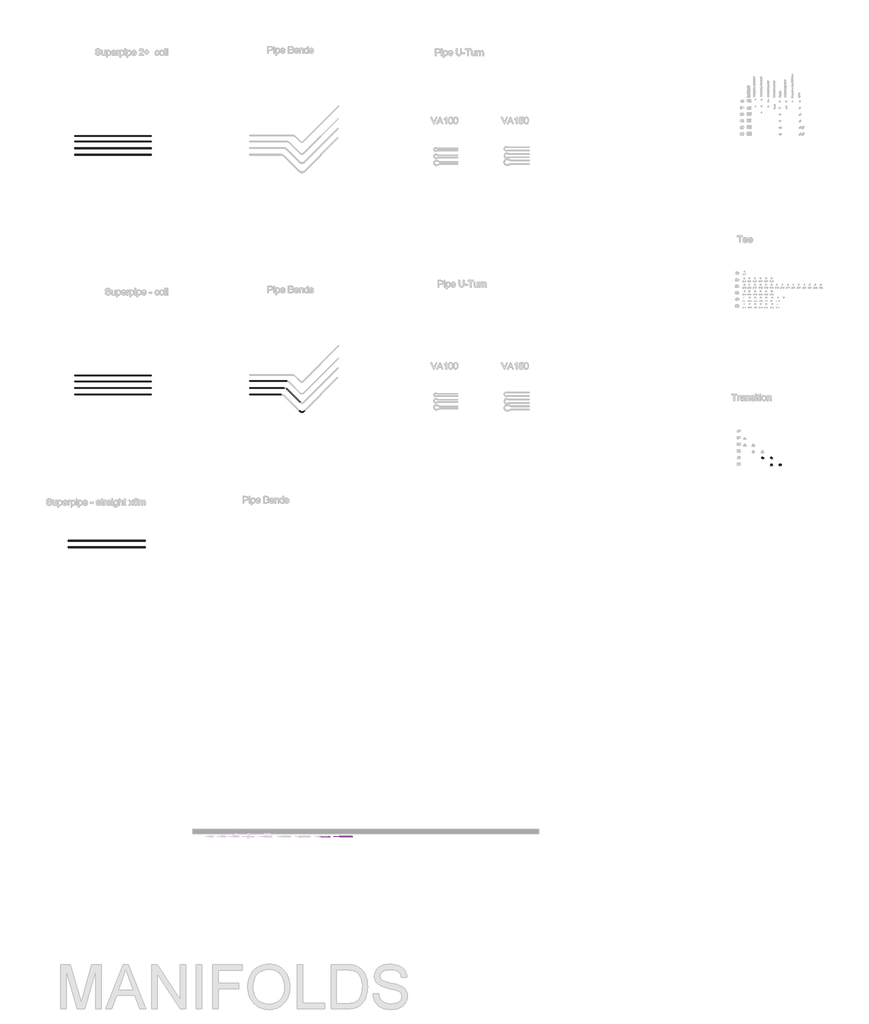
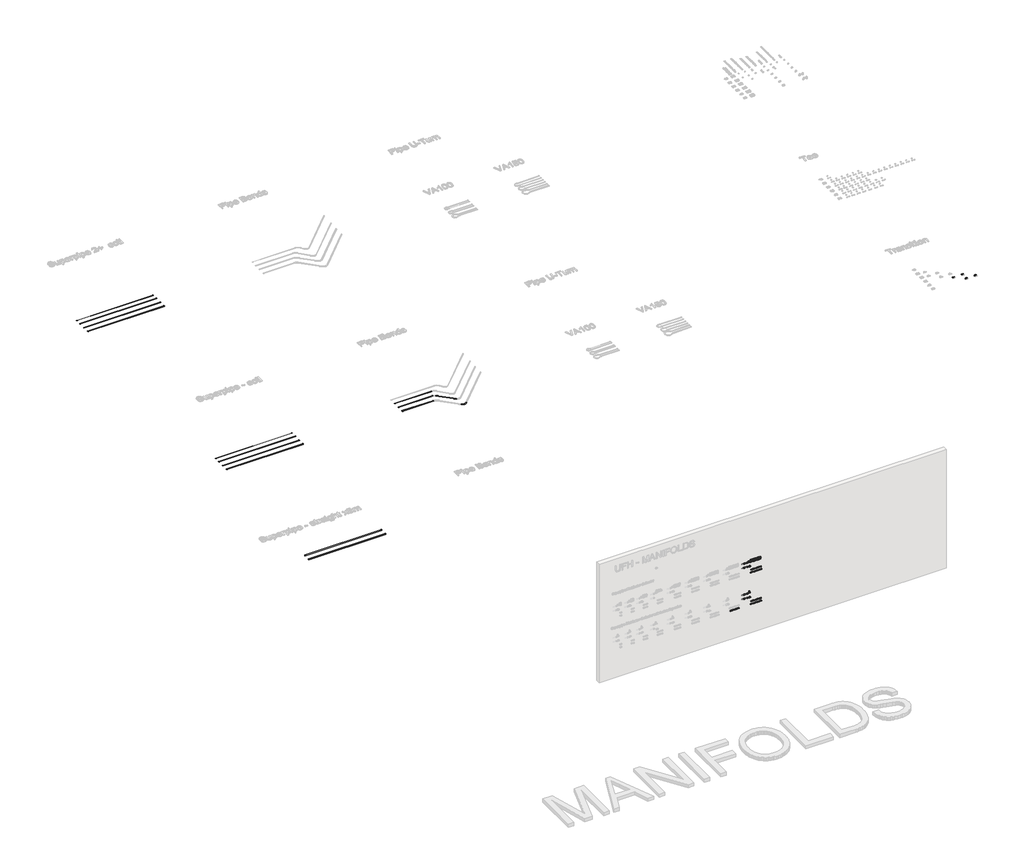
# One storey, part 4 of 26: 61 pipe fittings, 20 pipe segments, 15 valves.
"""IFC4 building model written with IfcOpenShell, lengths in millimetres."""

from ifc_helpers import new_model, si_unit, point, frame, frame_2d, origin, place, context, project, spatial, circle_curve, trimmed, segment, composite_curve, outline, extrude, transform, mapped, element, save
from components import pipe_fitting_a4cde8ab, pipe_fitting_d8af90f1, pipe_bend_fe3f6248, press_connection_with_male_thread_667abdb5, press_reducer_467b4773, press_reducer_bae177b8, press_reducer_7717a8a0, press_reducer_344c6283, valve_0291d072, valve_f4025eb8, valve_fccc3399, valve_a3a22d59

model = new_model("IFC4")

# Units and contexts
model_context = context("Model", 3, world=origin())
ifc_project = project(units=[si_unit("LENGTHUNIT", "METRE", prefix="MILLI")], contexts=[model_context])

# Site, building, storey
site = spatial("IfcSite", under=ifc_project)
building = spatial("IfcBuilding", under=site)
storey = spatial("IfcBuildingStorey", under=building, Name="Superpipe UFH", Elevation=0.0)

# Pipe fittings
placement = place(None, origin())
pipe_fitting_shape = pipe_fitting_a4cde8ab(model_context)
element("IfcPipeFitting", 1, ObjectType="Compression Adapter 3/4\"FT : Superpipe Compression Adapter", at=placement, inside=storey, context=model_context, shape_type="MappedRepresentation", body=[
    mapped(pipe_fitting_shape, transform((7210.9437203, -1357.1498396, 3026.0549194), x_axis=(0.0, 0.0, -1.0), y_axis=(0.0, 1.0, 0.0), z_axis=(1.0, 0.0, 0.0))),
])
element("IfcPipeFitting", 2, ObjectType="Compression Adapter 3/4\"FT : Superpipe Compression Adapter", at=placement, inside=storey, context=model_context, shape_type="MappedRepresentation", body=[
    mapped(pipe_fitting_shape, transform((7263.5581355, -1357.1498396, 3026.0549194), x_axis=(0.0, 0.0, -1.0), y_axis=(0.0, 1.0, 0.0), z_axis=(1.0, 0.0, 0.0))),
])
element("IfcPipeFitting", 3, ObjectType="Compression Adapter 3/4\"FT : Superpipe Compression Adapter", at=placement, inside=storey, context=model_context, shape_type="MappedRepresentation", body=[
    mapped(pipe_fitting_shape, transform((7318.5581355, -1357.1498396, 3026.0549194), x_axis=(0.0, 0.0, -1.0), y_axis=(0.0, 1.0, 0.0), z_axis=(1.0, 0.0, 0.0))),
])
element("IfcPipeFitting", 4, ObjectType="Compression Adapter 3/4\"FT : Superpipe Compression Adapter", at=placement, inside=storey, context=model_context, shape_type="MappedRepresentation", body=[
    mapped(pipe_fitting_shape, transform((7371.0581355, -1357.1498396, 3026.0549194), x_axis=(0.0, 0.0, -1.0), y_axis=(0.0, 1.0, 0.0), z_axis=(1.0, 0.0, 0.0))),
])
element("IfcPipeFitting", 5, ObjectType="Compression Adapter 3/4\"FT : Superpipe Compression Adapter", at=placement, inside=storey, context=model_context, shape_type="MappedRepresentation", body=[
    mapped(pipe_fitting_shape, transform((7426.0581355, -1357.1498396, 3026.0549194), x_axis=(0.0, 0.0, -1.0), y_axis=(0.0, 1.0, 0.0), z_axis=(1.0, 0.0, 0.0))),
])
element("IfcPipeFitting", 6, ObjectType="Compression Adapter 3/4\"FT : Superpipe Compression Adapter", at=placement, inside=storey, context=model_context, shape_type="MappedRepresentation", body=[
    mapped(pipe_fitting_shape, transform((7476.0581355, -1357.1498396, 3026.0549194), x_axis=(0.0, 0.0, -1.0), y_axis=(0.0, 1.0, 0.0), z_axis=(1.0, 0.0, 0.0))),
])
element("IfcPipeFitting", 7, ObjectType="Compression Adapter 3/4\"FT : Superpipe Compression Adapter", at=placement, inside=storey, context=model_context, shape_type="MappedRepresentation", body=[
    mapped(pipe_fitting_shape, transform((7526.0581355, -1357.1498396, 3026.0549194), x_axis=(0.0, 0.0, -1.0), y_axis=(0.0, 1.0, 0.0), z_axis=(1.0, 0.0, 0.0))),
])
element("IfcPipeFitting", 8, ObjectType="Compression Adapter 3/4\"FT : Superpipe Compression Adapter", at=placement, inside=storey, context=model_context, shape_type="MappedRepresentation", body=[
    mapped(pipe_fitting_shape, transform((7580.8298174, -1357.1498396, 3025.8255748), x_axis=(0.0, 0.0, -1.0), y_axis=(0.0, 1.0, 0.0), z_axis=(1.0, 0.0, 0.0))),
])
element("IfcPipeFitting", 9, ObjectType="Compression Adapter 3/4\"FT : Superpipe Compression Adapter", at=placement, inside=storey, context=model_context, shape_type="MappedRepresentation", body=[
    mapped(pipe_fitting_shape, transform((7630.8298174, -1357.1498396, 3025.8255748), x_axis=(0.0, 0.0, -1.0), y_axis=(0.0, 1.0, 0.0), z_axis=(1.0, 0.0, 0.0))),
])
element("IfcPipeFitting", 10, ObjectType="Compression Adapter 3/4\"FT : Superpipe Compression Adapter", at=placement, inside=storey, context=model_context, shape_type="MappedRepresentation", body=[
    mapped(pipe_fitting_shape, transform((7680.8298174, -1357.1498396, 3025.8255748), x_axis=(0.0, 0.0, -1.0), y_axis=(0.0, 1.0, 0.0), z_axis=(1.0, 0.0, 0.0))),
])
element("IfcPipeFitting", 11, ObjectType="Compression Adapter 3/4\"FT : Superpipe Compression Adapter", at=placement, inside=storey, context=model_context, shape_type="MappedRepresentation", body=[
    mapped(pipe_fitting_shape, transform((6286.9213282, -1357.1498396, 1503.4111955), x_axis=(0.0, 0.0, -1.0), y_axis=(0.0, 1.0, 0.0), z_axis=(1.0, 0.0, 0.0))),
])
element("IfcPipeFitting", 12, ObjectType="Compression Adapter 3/4\"FT : Superpipe Compression Adapter", at=placement, inside=storey, context=model_context, shape_type="MappedRepresentation", body=[
    mapped(pipe_fitting_shape, transform((6341.9213282, -1357.1498396, 1503.4111955), x_axis=(0.0, 0.0, -1.0), y_axis=(0.0, 1.0, 0.0), z_axis=(1.0, 0.0, 0.0))),
])
element("IfcPipeFitting", 13, ObjectType="Compression Adapter 3/4\"FT : Superpipe Compression Adapter", at=placement, inside=storey, context=model_context, shape_type="MappedRepresentation", body=[
    mapped(pipe_fitting_shape, transform((6394.4213282, -1357.1498396, 1503.4111955), x_axis=(0.0, 0.0, -1.0), y_axis=(0.0, 1.0, 0.0), z_axis=(1.0, 0.0, 0.0))),
])
element("IfcPipeFitting", 14, ObjectType="Compression Adapter 3/4\"FT : Superpipe Compression Adapter", at=placement, inside=storey, context=model_context, shape_type="MappedRepresentation", body=[
    mapped(pipe_fitting_shape, transform((6449.4213282, -1357.1498396, 1503.4111955), x_axis=(0.0, 0.0, -1.0), y_axis=(0.0, 1.0, 0.0), z_axis=(1.0, 0.0, 0.0))),
])
element("IfcPipeFitting", 15, ObjectType="Compression Adapter 3/4\"FT : Superpipe Compression Adapter", at=placement, inside=storey, context=model_context, shape_type="MappedRepresentation", body=[
    mapped(pipe_fitting_shape, transform((6499.4213282, -1357.1498396, 1503.4111955), x_axis=(0.0, 0.0, -1.0), y_axis=(0.0, 1.0, 0.0), z_axis=(1.0, 0.0, 0.0))),
])
element("IfcPipeFitting", 16, ObjectType="Compression Adapter 3/4\"FT : Superpipe Compression Adapter", at=placement, inside=storey, context=model_context, shape_type="MappedRepresentation", body=[
    mapped(pipe_fitting_shape, transform((6549.4213282, -1357.1498396, 1503.4111955), x_axis=(0.0, 0.0, -1.0), y_axis=(0.0, 1.0, 0.0), z_axis=(1.0, 0.0, 0.0))),
])
element("IfcPipeFitting", 17, ObjectType="Compression Adapter 3/4\"FT : Superpipe Compression Adapter", at=placement, inside=storey, context=model_context, shape_type="MappedRepresentation", body=[
    mapped(pipe_fitting_shape, transform((6604.1930101, -1357.1498396, 1503.1818509), x_axis=(0.0, 0.0, -1.0), y_axis=(0.0, 1.0, 0.0), z_axis=(1.0, 0.0, 0.0))),
])
element("IfcPipeFitting", 18, ObjectType="Compression Adapter 3/4\"FT : Superpipe Compression Adapter", at=placement, inside=storey, context=model_context, shape_type="MappedRepresentation", body=[
    mapped(pipe_fitting_shape, transform((6664.1930101, -1357.1498396, 1503.1818509), x_axis=(0.0, 0.0, -1.0), y_axis=(0.0, 1.0, 0.0), z_axis=(1.0, 0.0, 0.0))),
])
element("IfcPipeFitting", 19, ObjectType="Compression Adapter 3/4\"FT : Superpipe Compression Adapter", at=placement, inside=storey, context=model_context, shape_type="MappedRepresentation", body=[
    mapped(pipe_fitting_shape, transform((7210.9437203, -1357.1498396, 1506.0549194), x_axis=(0.0, 0.0, -1.0), y_axis=(0.0, 1.0, 0.0), z_axis=(1.0, 0.0, 0.0))),
])
element("IfcPipeFitting", 20, ObjectType="Compression Adapter 3/4\"FT : Superpipe Compression Adapter", at=placement, inside=storey, context=model_context, shape_type="MappedRepresentation", body=[
    mapped(pipe_fitting_shape, transform((7263.5581355, -1357.1498396, 1506.0549194), x_axis=(0.0, 0.0, -1.0), y_axis=(0.0, 1.0, 0.0), z_axis=(1.0, 0.0, 0.0))),
])
element("IfcPipeFitting", 21, ObjectType="Compression Adapter 3/4\"FT : Superpipe Compression Adapter", at=placement, inside=storey, context=model_context, shape_type="MappedRepresentation", body=[
    mapped(pipe_fitting_shape, transform((7318.5581355, -1357.1498396, 1506.0549194), x_axis=(0.0, 0.0, -1.0), y_axis=(0.0, 1.0, 0.0), z_axis=(1.0, 0.0, 0.0))),
])
element("IfcPipeFitting", 22, ObjectType="Compression Adapter 3/4\"FT : Superpipe Compression Adapter", at=placement, inside=storey, context=model_context, shape_type="MappedRepresentation", body=[
    mapped(pipe_fitting_shape, transform((7371.0581355, -1357.1498396, 1506.0549194), x_axis=(0.0, 0.0, -1.0), y_axis=(0.0, 1.0, 0.0), z_axis=(1.0, 0.0, 0.0))),
])
element("IfcPipeFitting", 23, ObjectType="Compression Adapter 3/4\"FT : Superpipe Compression Adapter", at=placement, inside=storey, context=model_context, shape_type="MappedRepresentation", body=[
    mapped(pipe_fitting_shape, transform((7426.0581355, -1357.1498396, 1506.0549194), x_axis=(0.0, 0.0, -1.0), y_axis=(0.0, 1.0, 0.0), z_axis=(1.0, 0.0, 0.0))),
])
element("IfcPipeFitting", 24, ObjectType="Compression Adapter 3/4\"FT : Superpipe Compression Adapter", at=placement, inside=storey, context=model_context, shape_type="MappedRepresentation", body=[
    mapped(pipe_fitting_shape, transform((7476.0581355, -1357.1498396, 1506.0549194), x_axis=(0.0, 0.0, -1.0), y_axis=(0.0, 1.0, 0.0), z_axis=(1.0, 0.0, 0.0))),
])
element("IfcPipeFitting", 25, ObjectType="Compression Adapter 3/4\"FT : Superpipe Compression Adapter", at=placement, inside=storey, context=model_context, shape_type="MappedRepresentation", body=[
    mapped(pipe_fitting_shape, transform((7526.0581355, -1357.1498396, 1506.0549194), x_axis=(0.0, 0.0, -1.0), y_axis=(0.0, 1.0, 0.0), z_axis=(1.0, 0.0, 0.0))),
])
element("IfcPipeFitting", 26, ObjectType="Compression Adapter 3/4\"FT : Superpipe Compression Adapter", at=placement, inside=storey, context=model_context, shape_type="MappedRepresentation", body=[
    mapped(pipe_fitting_shape, transform((7580.8298174, -1357.1498396, 1505.8255748), x_axis=(0.0, 0.0, -1.0), y_axis=(0.0, 1.0, 0.0), z_axis=(1.0, 0.0, 0.0))),
])
element("IfcPipeFitting", 27, ObjectType="Compression Adapter 3/4\"FT : Superpipe Compression Adapter", at=placement, inside=storey, context=model_context, shape_type="MappedRepresentation", body=[
    mapped(pipe_fitting_shape, transform((7630.8298174, -1357.1498396, 1505.8255748), x_axis=(0.0, 0.0, -1.0), y_axis=(0.0, 1.0, 0.0), z_axis=(1.0, 0.0, 0.0))),
])
element("IfcPipeFitting", 28, ObjectType="Compression Adapter 3/4\"FT : Superpipe Compression Adapter", at=placement, inside=storey, context=model_context, shape_type="MappedRepresentation", body=[
    mapped(pipe_fitting_shape, transform((7680.8298174, -1357.1498396, 1505.8255748), x_axis=(0.0, 0.0, -1.0), y_axis=(0.0, 1.0, 0.0), z_axis=(1.0, 0.0, 0.0))),
])
pipe_fitting_2_shape = pipe_fitting_d8af90f1(model_context)
element("IfcPipeFitting", 29, ObjectType="Compression Adapter Euro : Superpipe Compression Adapter Euro", at=placement, inside=storey, context=model_context, shape_type="MappedRepresentation", body=[
    mapped(pipe_fitting_2_shape, transform((7468.1169421, -1357.1498396, 3156.651306), x_axis=(0.0, 0.0, -1.0000000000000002), y_axis=(0.0, 1.0000000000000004, 0.0), z_axis=(1.0000000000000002, 0.0, 0.0))),
])
element("IfcPipeFitting", 30, ObjectType="Compression Adapter Euro : Superpipe Compression Adapter Euro", at=placement, inside=storey, context=model_context, shape_type="MappedRepresentation", body=[
    mapped(pipe_fitting_2_shape, transform((7419.3669421, -1357.1498396, 3156.651306), x_axis=(0.0, 0.0, -1.0000000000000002), y_axis=(0.0, 1.0000000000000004, 0.0), z_axis=(1.0000000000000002, 0.0, 0.0))),
])
element("IfcPipeFitting", 31, ObjectType="Compression Adapter Euro : Superpipe Compression Adapter Euro", at=placement, inside=storey, context=model_context, shape_type="MappedRepresentation", body=[
    mapped(pipe_fitting_2_shape, transform((7218.6201394, -1357.1498396, 3156.651306), x_axis=(0.0, 0.0, -1.0000000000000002), y_axis=(0.0, 1.0000000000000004, 0.0), z_axis=(1.0000000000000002, 0.0, 0.0))),
])
element("IfcPipeFitting", 32, ObjectType="Compression Adapter Euro : Superpipe Compression Adapter Euro", at=placement, inside=storey, context=model_context, shape_type="MappedRepresentation", body=[
    mapped(pipe_fitting_2_shape, transform((7264.8701394, -1357.1498396, 3156.651306), x_axis=(0.0, 0.0, -1.0000000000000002), y_axis=(0.0, 1.0000000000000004, 0.0), z_axis=(1.0000000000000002, 0.0, 0.0))),
])
element("IfcPipeFitting", 33, ObjectType="Compression Adapter Euro : Superpipe Compression Adapter Euro", at=placement, inside=storey, context=model_context, shape_type="MappedRepresentation", body=[
    mapped(pipe_fitting_2_shape, transform((7314.8701394, -1357.1498396, 3156.651306), x_axis=(0.0, 0.0, -1.0000000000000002), y_axis=(0.0, 1.0000000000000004, 0.0), z_axis=(1.0000000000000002, 0.0, 0.0))),
])
element("IfcPipeFitting", 34, ObjectType="Compression Adapter Euro : Superpipe Compression Adapter Euro", at=placement, inside=storey, context=model_context, shape_type="MappedRepresentation", body=[
    mapped(pipe_fitting_2_shape, transform((7367.1227947, -1357.1498396, 3156.651306), x_axis=(0.0, 0.0, -1.0000000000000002), y_axis=(0.0, 1.0000000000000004, 0.0), z_axis=(1.0000000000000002, 0.0, 0.0))),
])
element("IfcPipeFitting", 35, ObjectType="Compression Adapter Euro : Superpipe Compression Adapter Euro", at=placement, inside=storey, context=model_context, shape_type="MappedRepresentation", body=[
    mapped(pipe_fitting_2_shape, transform((7520.6169421, -1357.1498396, 3156.651306), x_axis=(0.0, 0.0, -1.0000000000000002), y_axis=(0.0, 1.0000000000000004, 0.0), z_axis=(1.0000000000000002, 0.0, 0.0))),
])
element("IfcPipeFitting", 36, ObjectType="Compression Adapter Euro : Superpipe Compression Adapter Euro", at=placement, inside=storey, context=model_context, shape_type="MappedRepresentation", body=[
    mapped(pipe_fitting_2_shape, transform((7568.9415054, -1357.1498396, 3156.651306), x_axis=(0.0, 0.0, -1.0000000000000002), y_axis=(0.0, 1.0000000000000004, 0.0), z_axis=(1.0000000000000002, 0.0, 0.0))),
])
element("IfcPipeFitting", 37, ObjectType="Compression Adapter Euro : Superpipe Compression Adapter Euro", at=placement, inside=storey, context=model_context, shape_type="MappedRepresentation", body=[
    mapped(pipe_fitting_2_shape, transform((7618.7254983, -1357.1498396, 3156.651306), x_axis=(0.0, 0.0, -1.0000000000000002), y_axis=(0.0, 1.0000000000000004, 0.0), z_axis=(1.0000000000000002, 0.0, 0.0))),
])
element("IfcPipeFitting", 38, ObjectType="Compression Adapter Euro : Superpipe Compression Adapter Euro", at=placement, inside=storey, context=model_context, shape_type="MappedRepresentation", body=[
    mapped(pipe_fitting_2_shape, transform((7673.7254983, -1357.1498396, 3156.651306), x_axis=(0.0, 0.0, -1.0000000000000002), y_axis=(0.0, 1.0000000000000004, 0.0), z_axis=(1.0000000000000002, 0.0, 0.0))),
])
element("IfcPipeFitting", 39, ObjectType="Compression Adapter Euro : Superpipe Compression Adapter Euro", at=placement, inside=storey, context=model_context, shape_type="MappedRepresentation", body=[
    mapped(pipe_fitting_2_shape, transform((7468.1169421, -1357.1498396, 1636.651306), x_axis=(0.0, 0.0, -1.0000000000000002), y_axis=(0.0, 1.0000000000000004, 0.0), z_axis=(1.0000000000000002, 0.0, 0.0))),
])
element("IfcPipeFitting", 40, ObjectType="Compression Adapter Euro : Superpipe Compression Adapter Euro", at=placement, inside=storey, context=model_context, shape_type="MappedRepresentation", body=[
    mapped(pipe_fitting_2_shape, transform((7419.3669421, -1357.1498396, 1636.651306), x_axis=(0.0, 0.0, -1.0000000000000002), y_axis=(0.0, 1.0000000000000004, 0.0), z_axis=(1.0000000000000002, 0.0, 0.0))),
])
element("IfcPipeFitting", 41, ObjectType="Compression Adapter Euro : Superpipe Compression Adapter Euro", at=placement, inside=storey, context=model_context, shape_type="MappedRepresentation", body=[
    mapped(pipe_fitting_2_shape, transform((7218.6201394, -1357.1498396, 1636.651306), x_axis=(0.0, 0.0, -1.0000000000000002), y_axis=(0.0, 1.0000000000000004, 0.0), z_axis=(1.0000000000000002, 0.0, 0.0))),
])
element("IfcPipeFitting", 42, ObjectType="Compression Adapter Euro : Superpipe Compression Adapter Euro", at=placement, inside=storey, context=model_context, shape_type="MappedRepresentation", body=[
    mapped(pipe_fitting_2_shape, transform((7264.8701394, -1357.1498396, 1636.651306), x_axis=(0.0, 0.0, -1.0000000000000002), y_axis=(0.0, 1.0000000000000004, 0.0), z_axis=(1.0000000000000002, 0.0, 0.0))),
])
element("IfcPipeFitting", 43, ObjectType="Compression Adapter Euro : Superpipe Compression Adapter Euro", at=placement, inside=storey, context=model_context, shape_type="MappedRepresentation", body=[
    mapped(pipe_fitting_2_shape, transform((7314.8701394, -1357.1498396, 1636.651306), x_axis=(0.0, 0.0, -1.0000000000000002), y_axis=(0.0, 1.0000000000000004, 0.0), z_axis=(1.0000000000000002, 0.0, 0.0))),
])
element("IfcPipeFitting", 44, ObjectType="Compression Adapter Euro : Superpipe Compression Adapter Euro", at=placement, inside=storey, context=model_context, shape_type="MappedRepresentation", body=[
    mapped(pipe_fitting_2_shape, transform((7367.1227947, -1357.1498396, 1636.651306), x_axis=(0.0, 0.0, -1.0000000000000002), y_axis=(0.0, 1.0000000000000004, 0.0), z_axis=(1.0000000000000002, 0.0, 0.0))),
])
element("IfcPipeFitting", 45, ObjectType="Compression Adapter Euro : Superpipe Compression Adapter Euro", at=placement, inside=storey, context=model_context, shape_type="MappedRepresentation", body=[
    mapped(pipe_fitting_2_shape, transform((7520.6169421, -1357.1498396, 1636.651306), x_axis=(0.0, 0.0, -1.0000000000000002), y_axis=(0.0, 1.0000000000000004, 0.0), z_axis=(1.0000000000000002, 0.0, 0.0))),
])
element("IfcPipeFitting", 46, ObjectType="Compression Adapter Euro : Superpipe Compression Adapter Euro", at=placement, inside=storey, context=model_context, shape_type="MappedRepresentation", body=[
    mapped(pipe_fitting_2_shape, transform((7568.9415054, -1357.1498396, 1636.651306), x_axis=(0.0, 0.0, -1.0000000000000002), y_axis=(0.0, 1.0000000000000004, 0.0), z_axis=(1.0000000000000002, 0.0, 0.0))),
])
element("IfcPipeFitting", 47, ObjectType="Compression Adapter Euro : Superpipe Compression Adapter Euro", at=placement, inside=storey, context=model_context, shape_type="MappedRepresentation", body=[
    mapped(pipe_fitting_2_shape, transform((7618.7254983, -1357.1498396, 1636.651306), x_axis=(0.0, 0.0, -1.0000000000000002), y_axis=(0.0, 1.0000000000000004, 0.0), z_axis=(1.0000000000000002, 0.0, 0.0))),
])
element("IfcPipeFitting", 48, ObjectType="Compression Adapter Euro : Superpipe Compression Adapter Euro", at=placement, inside=storey, context=model_context, shape_type="MappedRepresentation", body=[
    mapped(pipe_fitting_2_shape, transform((7673.7254983, -1357.1498396, 1636.651306), x_axis=(0.0, 0.0, -1.0000000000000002), y_axis=(0.0, 1.0000000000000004, 0.0), z_axis=(1.0000000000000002, 0.0, 0.0))),
])
pipe_bend_shape = pipe_bend_fe3f6248(model_context)
element("IfcPipeFitting", 49, ObjectType="Pipe Bend : Superpipe Pipe bend", at=placement, inside=storey, context=model_context, shape_type="MappedRepresentation", body=[
    mapped(pipe_bend_shape, transform((5380.1822645, 17966.7203104, 0.0), x_axis=(0.7071067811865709, -0.7071067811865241, 0.0), y_axis=(0.7071067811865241, 0.7071067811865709, 0.0), z_axis=(0.0, 0.0, 1.0))),
])
press_connection_with_male_thread_shape = press_connection_with_male_thread_667abdb5(model_context)
element("IfcPipeFitting", 50, ObjectType="Press Connection with Male Thread : Superpipe Press Connection - 32x1\" MT", at=placement, inside=storey, context=model_context, shape_type="MappedRepresentation", body=[
    mapped(press_connection_with_male_thread_shape, transform((7021.0162689, -1341.3459802, 2038.2184969), x_axis=(1.0, 0.0, 0.0), y_axis=(0.0, 1.0, 0.0), z_axis=(0.0, 0.0, 1.0))),
])
element("IfcPipeFitting", 51, ObjectType="Press Connection with Male Thread : Superpipe Press Connection - 32x1\" MT", at=placement, inside=storey, context=model_context, shape_type="MappedRepresentation", body=[
    mapped(press_connection_with_male_thread_shape, transform((7025.9601006, -1341.3459802, 1837.7531393), x_axis=(1.0, 0.0, 0.0), y_axis=(0.0, 1.0, 0.0), z_axis=(0.0, 0.0, 1.0))),
])
element("IfcPipeFitting", 52, ObjectType="Press Connection with Male Thread : Superpipe Press Connection - 32x1\" MT", at=placement, inside=storey, context=model_context, shape_type="MappedRepresentation", body=[
    mapped(press_connection_with_male_thread_shape, transform((7021.0459267, -1341.3459802, 3527.7404897), x_axis=(1.0, 0.0, 0.0), y_axis=(0.0, 1.0, 0.0), z_axis=(0.0, 0.0, 1.0))),
])
element("IfcPipeFitting", 53, ObjectType="Press Connection with Male Thread : Superpipe Press Connection - 32x1\" MT", at=placement, inside=storey, context=model_context, shape_type="MappedRepresentation", body=[
    mapped(press_connection_with_male_thread_shape, transform((7025.9897584, -1341.3459802, 3327.275132), x_axis=(1.0, 0.0, 0.0), y_axis=(0.0, 1.0, 0.0), z_axis=(0.0, 0.0, 1.0))),
])
press_reducer_shape = press_reducer_467b4773(model_context)
element("IfcPipeFitting", 54, ObjectType="Press Reducer : Superpipe Press Reducer", at=placement, inside=storey, context=model_context, shape_type="MappedRepresentation", body=[
    mapped(press_reducer_shape, transform((26450.9061754, 15938.5641146, 0.0), x_axis=(-0.9999999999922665, -3.932839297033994e-06, 0.0), y_axis=(3.932839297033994e-06, -0.9999999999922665, 0.0), z_axis=(0.0, 0.0, 1.0))),
])
press_reducer_2_shape = press_reducer_bae177b8(model_context)
element("IfcPipeFitting", 55, ObjectType="Press Reducer : Superpipe Press Reducer", at=placement, inside=storey, context=model_context, shape_type="MappedRepresentation", body=[
    mapped(press_reducer_2_shape, transform((26858.0995727, 15938.5653652, 0.0), x_axis=(-0.9999999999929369, -3.758511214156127e-06, 0.0), y_axis=(3.758511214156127e-06, -0.9999999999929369, 0.0), z_axis=(0.0, 0.0, 1.0))),
])
element("IfcPipeFitting", 56, ObjectType="Press Reducer : Superpipe Press Reducer", at=placement, inside=storey, context=model_context, shape_type="MappedRepresentation", body=[
    mapped(press_reducer_2_shape, transform((6970.2559402, -1341.3459802, 2038.4293979), x_axis=(-1.0, 0.0, 0.0), y_axis=(0.0, -1.0, 0.0), z_axis=(0.0, 0.0, 1.0))),
])
element("IfcPipeFitting", 57, ObjectType="Press Reducer : Superpipe Press Reducer", at=placement, inside=storey, context=model_context, shape_type="MappedRepresentation", body=[
    mapped(press_reducer_2_shape, transform((6965.2559402, -1341.3459802, 1837.7531393), x_axis=(-1.0, 0.0, 0.0), y_axis=(0.0, -1.0, 0.0), z_axis=(0.0, 0.0, 1.0))),
])
element("IfcPipeFitting", 58, ObjectType="Press Reducer : Superpipe Press Reducer", at=placement, inside=storey, context=model_context, shape_type="MappedRepresentation", body=[
    mapped(press_reducer_2_shape, transform((6970.285598, -1341.3466532, 3527.7404897), x_axis=(-1.0, 0.0, 0.0), y_axis=(0.0, -1.0, 0.0), z_axis=(0.0, 0.0, 1.0))),
])
element("IfcPipeFitting", 59, ObjectType="Press Reducer : Superpipe Press Reducer", at=placement, inside=storey, context=model_context, shape_type="MappedRepresentation", body=[
    mapped(press_reducer_2_shape, transform((6965.285598, -1341.3459802, 3327.275132), x_axis=(-1.0, 0.0, 0.0), y_axis=(0.0, -1.0, 0.0), z_axis=(0.0, 0.0, 1.0))),
])
press_reducer_3_shape = press_reducer_7717a8a0(model_context)
element("IfcPipeFitting", 60, ObjectType="Press Reducer : Superpipe Press Reducer", at=placement, inside=storey, context=model_context, shape_type="MappedRepresentation", body=[
    mapped(press_reducer_3_shape, transform((26777.1007272, 15631.4198002, 0.0), x_axis=(0.9999999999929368, 3.758511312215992e-06, 0.0), y_axis=(-3.758511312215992e-06, 0.9999999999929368, 0.0), z_axis=(0.0, 0.0, 1.0))),
])
press_reducer_4_shape = press_reducer_344c6283(model_context)
element("IfcPipeFitting", 61, ObjectType="Press Reducer : Superpipe Press Reducer", at=placement, inside=storey, context=model_context, shape_type="MappedRepresentation", body=[
    mapped(press_reducer_4_shape, transform((27179.9062689, 15631.4187748, 0.0), x_axis=(0.9999999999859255, 5.305553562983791e-06, 0.0), y_axis=(-5.305553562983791e-06, 0.9999999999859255, 0.0), z_axis=(0.0, 0.0, 1.0))),
])

# Pipe segments
element("IfcPipeSegment", 62, ObjectType="Superpipe 2+ coil", at=placement, inside=storey, context=model_context, shape_type="SweptSolid", body=[
    extrude(outline(composite_curve([segment(trimmed(circle_curve(frame_2d((30634.821978, 0.0)), 8.0), [point((30626.821978, 0.0))], [point((30634.821978, 8.0))], False, "CARTESIAN"), True, "CONTINUOUS"), segment(trimmed(circle_curve(frame_2d((30634.821978, 0.0)), 8.0), [point((30634.821978, 8.0))], [point((30642.821978, 0.0))], False, "CARTESIAN"), True, "CONTINUOUS"), segment(trimmed(circle_curve(frame_2d((30634.821978, 0.0)), 8.0), [point((30642.821978, 0.0))], [point((30634.821978, -8.0))], False, "CARTESIAN"), True, "CONTINUOUS"), segment(trimmed(circle_curve(frame_2d((30634.821978, 0.0)), 8.0), [point((30634.821978, -8.0))], [point((30626.821978, 0.0))], False, "CARTESIAN"), True, "CONTINUOUS")], self_intersect=False)), frame((-4982.1217724, 0.0, 0.0), z_axis=(1.0, 0.0, 0.0), x_axis=(0.0, 1.0, 0.0)), (0.0, 0.0, 1.0), 3490.872583),
])
element("IfcPipeSegment", 63, ObjectType="Superpipe 2+ coil", at=placement, inside=storey, context=model_context, shape_type="SweptSolid", body=[
    extrude(outline(composite_curve([segment(trimmed(circle_curve(frame_2d((30372.1649795, 0.0)), 10.0), [point((30362.1649795, 0.0))], [point((30372.1649795, 10.0))], False, "CARTESIAN"), True, "CONTINUOUS"), segment(trimmed(circle_curve(frame_2d((30372.1649795, 0.0)), 10.0), [point((30372.1649795, 10.0))], [point((30382.1649795, 0.0))], False, "CARTESIAN"), True, "CONTINUOUS"), segment(trimmed(circle_curve(frame_2d((30372.1649795, 0.0)), 10.0), [point((30382.1649795, 0.0))], [point((30372.1649795, -10.0))], False, "CARTESIAN"), True, "CONTINUOUS"), segment(trimmed(circle_curve(frame_2d((30372.1649795, 0.0)), 10.0), [point((30372.1649795, -10.0))], [point((30362.1649795, 0.0))], False, "CARTESIAN"), True, "CONTINUOUS")], self_intersect=False)), frame((-4991.2491894, 0.0, 0.0), z_axis=(1.0, 0.0, 0.0), x_axis=(0.0, 1.0, 0.0)), (0.0, 0.0, 1.0), 3500.0),
])
element("IfcPipeSegment", 64, ObjectType="Superpipe 2+ coil", at=placement, inside=storey, context=model_context, shape_type="SweptSolid", body=[
    extrude(outline(composite_curve([segment(trimmed(circle_curve(frame_2d((30072.1649795, 0.0)), 12.5), [point((30059.6649795, 0.0))], [point((30072.1649795, 12.5))], False, "CARTESIAN"), True, "CONTINUOUS"), segment(trimmed(circle_curve(frame_2d((30072.1649795, 0.0)), 12.5), [point((30072.1649795, 12.5))], [point((30084.6649795, 0.0))], False, "CARTESIAN"), True, "CONTINUOUS"), segment(trimmed(circle_curve(frame_2d((30072.1649795, 0.0)), 12.5), [point((30084.6649795, 0.0))], [point((30072.1649795, -12.5))], False, "CARTESIAN"), True, "CONTINUOUS"), segment(trimmed(circle_curve(frame_2d((30072.1649795, 0.0)), 12.5), [point((30072.1649795, -12.5))], [point((30059.6649795, 0.0))], False, "CARTESIAN"), True, "CONTINUOUS")], self_intersect=False)), frame((-4982.1217724, 0.0, 0.0), z_axis=(1.0, 0.0, 0.0), x_axis=(0.0, 1.0, 0.0)), (0.0, 0.0, 1.0), 3490.872583),
])
element("IfcPipeSegment", 65, ObjectType="Superpipe 2+ coil", at=placement, inside=storey, context=model_context, shape_type="SweptSolid", body=[
    extrude(outline(composite_curve([segment(trimmed(circle_curve(frame_2d((29772.1649795, 0.0)), 16.0), [point((29756.1649795, 0.0))], [point((29772.1649795, 16.0))], False, "CARTESIAN"), True, "CONTINUOUS"), segment(trimmed(circle_curve(frame_2d((29772.1649795, 0.0)), 16.0), [point((29772.1649795, 16.0))], [point((29788.1649795, 0.0))], False, "CARTESIAN"), True, "CONTINUOUS"), segment(trimmed(circle_curve(frame_2d((29772.1649795, 0.0)), 16.0), [point((29788.1649795, 0.0))], [point((29772.1649795, -16.0))], False, "CARTESIAN"), True, "CONTINUOUS"), segment(trimmed(circle_curve(frame_2d((29772.1649795, 0.0)), 16.0), [point((29772.1649795, -16.0))], [point((29756.1649795, 0.0))], False, "CARTESIAN"), True, "CONTINUOUS")], self_intersect=False)), frame((-4977.5654232, 0.0, 0.0), z_axis=(1.0, 0.0, 0.0), x_axis=(0.0, 1.0, 0.0)), (0.0, 0.0, 1.0), 3486.3162338),
])
element("IfcPipeSegment", 66, ObjectType="Superpipe - coil", at=placement, inside=storey, context=model_context, shape_type="SweptSolid", body=[
    extrude(outline(composite_curve([segment(trimmed(circle_curve(frame_2d((19695.6133181, 0.0)), 8.0), [point((19687.6133181, 0.0))], [point((19695.6133181, 8.0))], False, "CARTESIAN"), True, "CONTINUOUS"), segment(trimmed(circle_curve(frame_2d((19695.6133181, 0.0)), 8.0), [point((19695.6133181, 8.0))], [point((19703.6133181, 0.0))], False, "CARTESIAN"), True, "CONTINUOUS"), segment(trimmed(circle_curve(frame_2d((19695.6133181, 0.0)), 8.0), [point((19703.6133181, 0.0))], [point((19695.6133181, -8.0))], False, "CARTESIAN"), True, "CONTINUOUS"), segment(trimmed(circle_curve(frame_2d((19695.6133181, 0.0)), 8.0), [point((19695.6133181, -8.0))], [point((19687.6133181, 0.0))], False, "CARTESIAN"), True, "CONTINUOUS")], self_intersect=False)), frame((-4982.1217724, 0.0, 0.0), z_axis=(1.0, 0.0, 0.0), x_axis=(0.0, 1.0, 0.0)), (0.0, 0.0, 1.0), 3490.872583),
])
element("IfcPipeSegment", 67, ObjectType="Superpipe - coil", at=placement, inside=storey, context=model_context, shape_type="SweptSolid", body=[
    extrude(outline(composite_curve([segment(trimmed(circle_curve(frame_2d((19432.9563196, 0.0)), 10.0), [point((19422.9563196, 0.0))], [point((19432.9563196, 10.0))], False, "CARTESIAN"), True, "CONTINUOUS"), segment(trimmed(circle_curve(frame_2d((19432.9563196, 0.0)), 10.0), [point((19432.9563196, 10.0))], [point((19442.9563196, 0.0))], False, "CARTESIAN"), True, "CONTINUOUS"), segment(trimmed(circle_curve(frame_2d((19432.9563196, 0.0)), 10.0), [point((19442.9563196, 0.0))], [point((19432.9563196, -10.0))], False, "CARTESIAN"), True, "CONTINUOUS"), segment(trimmed(circle_curve(frame_2d((19432.9563196, 0.0)), 10.0), [point((19432.9563196, -10.0))], [point((19422.9563196, 0.0))], False, "CARTESIAN"), True, "CONTINUOUS")], self_intersect=False)), frame((-4991.2491894, 0.0, 0.0), z_axis=(1.0, 0.0, 0.0), x_axis=(0.0, 1.0, 0.0)), (0.0, 0.0, 1.0), 3500.0),
])
element("IfcPipeSegment", 68, ObjectType="Superpipe - coil", at=placement, inside=storey, context=model_context, shape_type="SweptSolid", body=[
    extrude(outline(composite_curve([segment(trimmed(circle_curve(frame_2d((19132.9563196, 0.0)), 12.5), [point((19120.4563196, 0.0))], [point((19132.9563196, 12.5))], False, "CARTESIAN"), True, "CONTINUOUS"), segment(trimmed(circle_curve(frame_2d((19132.9563196, 0.0)), 12.5), [point((19132.9563196, 12.5))], [point((19145.4563196, 0.0))], False, "CARTESIAN"), True, "CONTINUOUS"), segment(trimmed(circle_curve(frame_2d((19132.9563196, 0.0)), 12.5), [point((19145.4563196, 0.0))], [point((19132.9563196, -12.5))], False, "CARTESIAN"), True, "CONTINUOUS"), segment(trimmed(circle_curve(frame_2d((19132.9563196, 0.0)), 12.5), [point((19132.9563196, -12.5))], [point((19120.4563196, 0.0))], False, "CARTESIAN"), True, "CONTINUOUS")], self_intersect=False)), frame((-4982.1217724, 0.0, 0.0), z_axis=(1.0, 0.0, 0.0), x_axis=(0.0, 1.0, 0.0)), (0.0, 0.0, 1.0), 3490.872583),
])
element("IfcPipeSegment", 69, ObjectType="Superpipe - coil", at=placement, inside=storey, context=model_context, shape_type="SweptSolid", body=[
    extrude(outline(composite_curve([segment(trimmed(circle_curve(frame_2d((18832.9563196, 0.0)), 16.0), [point((18816.9563196, 0.0))], [point((18832.9563196, 16.0))], False, "CARTESIAN"), True, "CONTINUOUS"), segment(trimmed(circle_curve(frame_2d((18832.9563196, 0.0)), 16.0), [point((18832.9563196, 16.0))], [point((18848.9563196, 0.0))], False, "CARTESIAN"), True, "CONTINUOUS"), segment(trimmed(circle_curve(frame_2d((18832.9563196, 0.0)), 16.0), [point((18848.9563196, 0.0))], [point((18832.9563196, -16.0))], False, "CARTESIAN"), True, "CONTINUOUS"), segment(trimmed(circle_curve(frame_2d((18832.9563196, 0.0)), 16.0), [point((18832.9563196, -16.0))], [point((18816.9563196, 0.0))], False, "CARTESIAN"), True, "CONTINUOUS")], self_intersect=False)), frame((-4977.5654232, 0.0, 0.0), z_axis=(1.0, 0.0, 0.0), x_axis=(0.0, 1.0, 0.0)), (0.0, 0.0, 1.0), 3486.3162338),
])
element("IfcPipeSegment", 70, ObjectType="Superpipe - coil", at=placement, inside=storey, context=model_context, shape_type="SweptSolid", body=[
    extrude(outline(composite_curve([segment(trimmed(circle_curve(frame_2d((19140.2107229, 0.0)), 12.5), [point((19127.7107229, 0.0))], [point((19140.2107229, 12.5))], False, "CARTESIAN"), True, "CONTINUOUS"), segment(trimmed(circle_curve(frame_2d((19140.2107229, 0.0)), 12.5), [point((19140.2107229, 12.5))], [point((19152.7107229, 0.0))], False, "CARTESIAN"), True, "CONTINUOUS"), segment(trimmed(circle_curve(frame_2d((19140.2107229, 0.0)), 12.5), [point((19152.7107229, 0.0))], [point((19140.2107229, -12.5))], False, "CARTESIAN"), True, "CONTINUOUS"), segment(trimmed(circle_curve(frame_2d((19140.2107229, 0.0)), 12.5), [point((19140.2107229, -12.5))], [point((19127.7107229, 0.0))], False, "CARTESIAN"), True, "CONTINUOUS")], self_intersect=False)), frame((3008.7508106, 0.0, 0.0), z_axis=(1.0, 0.0, 0.0), x_axis=(0.0, 1.0, 0.0)), (0.0, 0.0, 1.0), 1575.2166399),
])
element("IfcPipeSegment", 71, ObjectType="Superpipe - coil", at=placement, inside=storey, context=model_context, shape_type="SweptSolid", body=[
    extrude(outline(composite_curve([segment(trimmed(circle_curve(frame_2d((0.0, -12.5)), 12.5), [point((-12.5, -12.5))], [point((0.0, 0.0))], False, "CARTESIAN"), True, "CONTINUOUS"), segment(trimmed(circle_curve(frame_2d((0.0, -12.5)), 12.5), [point((0.0, 0.0))], [point((12.5, -12.5))], False, "CARTESIAN"), True, "CONTINUOUS"), segment(trimmed(circle_curve(frame_2d((0.0, -12.5)), 12.5), [point((12.5, -12.5))], [point((0.0, -25.0))], False, "CARTESIAN"), True, "CONTINUOUS"), segment(trimmed(circle_curve(frame_2d((0.0, -12.5)), 12.5), [point((0.0, -25.0))], [point((-12.5, -12.5))], False, "CARTESIAN"), True, "CONTINUOUS")], self_intersect=False)), frame((5290.5211247, 18487.433744, -12.5), z_axis=(-0.7071067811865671, 0.707106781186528, 0.0), x_axis=(0.707106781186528, 0.7071067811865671, 0.0)), (0.0, 0.0, 1.0), 869.3893614),
])
element("IfcPipeSegment", 72, ObjectType="Superpipe - coil", at=placement, inside=storey, context=model_context, shape_type="SweptSolid", body=[
    extrude(outline(composite_curve([segment(trimmed(circle_curve(frame_2d((18835.4107229, 0.0)), 16.0), [point((18819.4107229, 0.0))], [point((18835.4107229, 16.0))], False, "CARTESIAN"), True, "CONTINUOUS"), segment(trimmed(circle_curve(frame_2d((18835.4107229, 0.0)), 16.0), [point((18835.4107229, 16.0))], [point((18851.4107229, 0.0))], False, "CARTESIAN"), True, "CONTINUOUS"), segment(trimmed(circle_curve(frame_2d((18835.4107229, 0.0)), 16.0), [point((18851.4107229, 0.0))], [point((18835.4107229, -16.0))], False, "CARTESIAN"), True, "CONTINUOUS"), segment(trimmed(circle_curve(frame_2d((18835.4107229, 0.0)), 16.0), [point((18835.4107229, -16.0))], [point((18819.4107229, 0.0))], False, "CARTESIAN"), True, "CONTINUOUS")], self_intersect=False)), frame((3008.7508106, 0.0, 0.0), z_axis=(1.0, 0.0, 0.0), x_axis=(0.0, 1.0, 0.0)), (0.0, 0.0, 1.0), 1434.4668714),
])
element("IfcPipeSegment", 73, ObjectType="Superpipe - coil", at=placement, inside=storey, context=model_context, shape_type="SweptSolid", body=[
    extrude(outline(composite_curve([segment(trimmed(circle_curve(frame_2d((19440.2107229, 0.0)), 10.0), [point((19450.2107229, 0.0))], [point((19440.2107229, -10.0))], False, "CARTESIAN"), True, "CONTINUOUS"), segment(trimmed(circle_curve(frame_2d((19440.2107229, 0.0)), 10.0), [point((19440.2107229, -10.0))], [point((19430.2107229, 0.0))], False, "CARTESIAN"), True, "CONTINUOUS"), segment(trimmed(circle_curve(frame_2d((19440.2107229, 0.0)), 10.0), [point((19430.2107229, 0.0))], [point((19440.2107229, 10.0))], False, "CARTESIAN"), True, "CONTINUOUS"), segment(trimmed(circle_curve(frame_2d((19440.2107229, 0.0)), 10.0), [point((19440.2107229, 10.0))], [point((19450.2107229, 0.0))], False, "CARTESIAN"), True, "CONTINUOUS")], self_intersect=False)), frame((3008.7508106, 0.0, 0.0), z_axis=(1.0, 0.0, 0.0), x_axis=(0.0, 1.0, 0.0)), (0.0, 0.0, 1.0), 1709.8360477),
])
element("IfcPipeSegment", 74, ObjectType="Superpipe - straight x5m", at=placement, inside=storey, context=model_context, shape_type="SweptSolid", body=[
    extrude(outline(composite_curve([segment(trimmed(circle_curve(frame_2d((12161.4960642, 0.0)), 20.0), [point((12141.4960642, 0.0))], [point((12161.4960642, 20.0))], False, "CARTESIAN"), True, "CONTINUOUS"), segment(trimmed(circle_curve(frame_2d((12161.4960642, 0.0)), 20.0), [point((12161.4960642, 20.0))], [point((12181.4960642, 0.0))], False, "CARTESIAN"), True, "CONTINUOUS"), segment(trimmed(circle_curve(frame_2d((12161.4960642, 0.0)), 20.0), [point((12181.4960642, 0.0))], [point((12161.4960642, -20.0))], False, "CARTESIAN"), True, "CONTINUOUS"), segment(trimmed(circle_curve(frame_2d((12161.4960642, 0.0)), 20.0), [point((12161.4960642, -20.0))], [point((12141.4960642, 0.0))], False, "CARTESIAN"), True, "CONTINUOUS")], self_intersect=False)), frame((-5272.0412617, 0.0, 0.0), z_axis=(1.0, 0.0, 0.0), x_axis=(0.0, 1.0, 0.0)), (0.0, 0.0, 1.0), 3500.0),
])
element("IfcPipeSegment", 75, ObjectType="Superpipe - straight x5m", at=placement, inside=storey, context=model_context, shape_type="SweptSolid", body=[
    extrude(outline(composite_curve([segment(trimmed(circle_curve(frame_2d((11861.4960642, 0.0)), 25.0), [point((11836.4960642, 0.0))], [point((11861.4960642, 25.0))], False, "CARTESIAN"), True, "CONTINUOUS"), segment(trimmed(circle_curve(frame_2d((11861.4960642, 0.0)), 25.0), [point((11861.4960642, 25.0))], [point((11886.4960642, 0.0))], False, "CARTESIAN"), True, "CONTINUOUS"), segment(trimmed(circle_curve(frame_2d((11861.4960642, 0.0)), 25.0), [point((11886.4960642, 0.0))], [point((11861.4960642, -25.0))], False, "CARTESIAN"), True, "CONTINUOUS"), segment(trimmed(circle_curve(frame_2d((11861.4960642, 0.0)), 25.0), [point((11861.4960642, -25.0))], [point((11836.4960642, 0.0))], False, "CARTESIAN"), True, "CONTINUOUS")], self_intersect=False)), frame((-5272.0412617, 0.0, 0.0), z_axis=(1.0, 0.0, 0.0), x_axis=(0.0, 1.0, 0.0)), (0.0, 0.0, 1.0), 3500.0),
])
element("IfcPipeSegment", 76, ObjectType="Superpipe - straight x5m", at=placement, inside=storey, context=model_context, shape_type="SweptSolid", body=[
    extrude(outline(composite_curve([segment(trimmed(circle_curve(frame_2d((0.0, -20.0)), 20.0), [point((-20.0, -20.0))], [point((0.0, 0.0))], False, "CARTESIAN"), True, "CONTINUOUS"), segment(trimmed(circle_curve(frame_2d((0.0, -20.0)), 20.0), [point((0.0, 0.0))], [point((20.0, -20.0))], False, "CARTESIAN"), True, "CONTINUOUS"), segment(trimmed(circle_curve(frame_2d((0.0, -20.0)), 20.0), [point((20.0, -20.0))], [point((0.0, -40.0))], False, "CARTESIAN"), True, "CONTINUOUS"), segment(trimmed(circle_curve(frame_2d((0.0, -20.0)), 20.0), [point((0.0, -40.0))], [point((-20.0, -20.0))], False, "CARTESIAN"), True, "CONTINUOUS")], self_intersect=False)), frame((6807.7559402, -1341.3458841, 2018.4293979), z_axis=(0.9999999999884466, 4.806992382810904e-06, 0.0), x_axis=(4.806992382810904e-06, -0.9999999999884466, 0.0)), (0.0, 0.0, 1.0), 120.0),
])
element("IfcPipeSegment", 77, ObjectType="Superpipe - straight x5m", at=placement, inside=storey, context=model_context, shape_type="SweptSolid", body=[
    extrude(outline(composite_curve([segment(trimmed(circle_curve(frame_2d((0.0, -20.0)), 20.0), [point((-20.0, -20.0))], [point((0.0, 0.0))], False, "CARTESIAN"), True, "CONTINUOUS"), segment(trimmed(circle_curve(frame_2d((0.0, -20.0)), 20.0), [point((0.0, 0.0))], [point((20.0, -20.0))], False, "CARTESIAN"), True, "CONTINUOUS"), segment(trimmed(circle_curve(frame_2d((0.0, -20.0)), 20.0), [point((20.0, -20.0))], [point((0.0, -40.0))], False, "CARTESIAN"), True, "CONTINUOUS"), segment(trimmed(circle_curve(frame_2d((0.0, -20.0)), 20.0), [point((0.0, -40.0))], [point((-20.0, -20.0))], False, "CARTESIAN"), True, "CONTINUOUS")], self_intersect=False)), frame((6807.7559402, -1341.3459802, 1817.7531393), z_axis=(0.9999999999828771, 5.851990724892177e-06, 0.0), x_axis=(5.851990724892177e-06, -0.9999999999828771, 0.0)), (0.0, 0.0, 1.0), 115.0),
])
element("IfcPipeSegment", 78, ObjectType="Superpipe 2+ coil", at=placement, inside=storey, context=model_context, shape_type="SweptSolid", body=[
    extrude(outline(composite_curve([segment(trimmed(circle_curve(frame_2d((-1341.3459802, 3527.7404897)), 16.0), [point((-1325.3459802, 3527.7404897))], [point((-1341.3459802, 3511.7404897))], False, "CARTESIAN"), True, "CONTINUOUS"), segment(trimmed(circle_curve(frame_2d((-1341.3459802, 3527.7404897)), 16.0), [point((-1341.3459802, 3511.7404897))], [point((-1357.3459802, 3527.7404897))], False, "CARTESIAN"), True, "CONTINUOUS"), segment(trimmed(circle_curve(frame_2d((-1341.3459802, 3527.7404897)), 16.0), [point((-1357.3459802, 3527.7404897))], [point((-1341.3459802, 3543.7404897))], False, "CARTESIAN"), True, "CONTINUOUS"), segment(trimmed(circle_curve(frame_2d((-1341.3459802, 3527.7404897)), 16.0), [point((-1341.3459802, 3543.7404897))], [point((-1325.3459802, 3527.7404897))], False, "CARTESIAN"), True, "CONTINUOUS")], self_intersect=False)), frame((6931.785598, 0.0, 0.0), z_axis=(1.0, 0.0, 0.0), x_axis=(0.0, 1.0, 0.0)), (0.0, 0.0, 1.0), 123.2603287),
])
element("IfcPipeSegment", 79, ObjectType="Superpipe 2+ coil", at=placement, inside=storey, context=model_context, shape_type="SweptSolid", body=[
    extrude(outline(composite_curve([segment(trimmed(circle_curve(frame_2d((0.0, 16.0)), 16.0), [point((-16.0, 16.0))], [point((0.0, 32.0))], False, "CARTESIAN"), True, "CONTINUOUS"), segment(trimmed(circle_curve(frame_2d((0.0, 16.0)), 16.0), [point((0.0, 32.0))], [point((16.0, 16.0))], False, "CARTESIAN"), True, "CONTINUOUS"), segment(trimmed(circle_curve(frame_2d((0.0, 16.0)), 16.0), [point((16.0, 16.0))], [point((0.0, 0.0))], False, "CARTESIAN"), True, "CONTINUOUS"), segment(trimmed(circle_curve(frame_2d((0.0, 16.0)), 16.0), [point((0.0, 0.0))], [point((-16.0, 16.0))], False, "CARTESIAN"), True, "CONTINUOUS")], self_intersect=False)), frame((7059.9897584, -1341.3459802, 3311.275132), z_axis=(-0.9999999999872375, 5.052236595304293e-06, 0.0), x_axis=(-5.052236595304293e-06, -0.9999999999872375, 0.0)), (0.0, 0.0, 1.0), 133.2041604),
])
element("IfcPipeSegment", 80, ObjectType="Superpipe - straight x5m", at=placement, inside=storey, context=model_context, shape_type="SweptSolid", body=[
    extrude(outline(composite_curve([segment(trimmed(circle_curve(frame_2d((0.0, -20.0)), 20.0), [point((-20.0, -20.0))], [point((0.0, 0.0))], False, "CARTESIAN"), True, "CONTINUOUS"), segment(trimmed(circle_curve(frame_2d((0.0, -20.0)), 20.0), [point((0.0, 0.0))], [point((20.0, -20.0))], False, "CARTESIAN"), True, "CONTINUOUS"), segment(trimmed(circle_curve(frame_2d((0.0, -20.0)), 20.0), [point((20.0, -20.0))], [point((0.0, -40.0))], False, "CARTESIAN"), True, "CONTINUOUS"), segment(trimmed(circle_curve(frame_2d((0.0, -20.0)), 20.0), [point((0.0, -40.0))], [point((-20.0, -20.0))], False, "CARTESIAN"), True, "CONTINUOUS")], self_intersect=False)), frame((6807.785598, -1341.3465571, 3507.7404897), z_axis=(0.9999999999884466, 4.806992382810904e-06, 0.0), x_axis=(4.806992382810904e-06, -0.9999999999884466, 0.0)), (0.0, 0.0, 1.0), 120.0),
])
element("IfcPipeSegment", 81, ObjectType="Superpipe - straight x5m", at=placement, inside=storey, context=model_context, shape_type="SweptSolid", body=[
    extrude(outline(composite_curve([segment(trimmed(circle_curve(frame_2d((0.0, -20.0)), 20.0), [point((-20.0, -20.0))], [point((0.0, 0.0))], False, "CARTESIAN"), True, "CONTINUOUS"), segment(trimmed(circle_curve(frame_2d((0.0, -20.0)), 20.0), [point((0.0, 0.0))], [point((20.0, -20.0))], False, "CARTESIAN"), True, "CONTINUOUS"), segment(trimmed(circle_curve(frame_2d((0.0, -20.0)), 20.0), [point((20.0, -20.0))], [point((0.0, -40.0))], False, "CARTESIAN"), True, "CONTINUOUS"), segment(trimmed(circle_curve(frame_2d((0.0, -20.0)), 20.0), [point((0.0, -40.0))], [point((-20.0, -20.0))], False, "CARTESIAN"), True, "CONTINUOUS")], self_intersect=False)), frame((6807.785598, -1341.3459802, 3307.275132), z_axis=(0.9999999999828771, 5.851990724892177e-06, 0.0), x_axis=(5.851990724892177e-06, -0.9999999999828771, 0.0)), (0.0, 0.0, 1.0), 115.0),
])

# Valves
valve_shape = valve_0291d072(model_context)
element("IfcValve", 82, ObjectType="Superpipe Actuator : Superpipe Actuator", at=placement, inside=storey, context=model_context, shape_type="MappedRepresentation", body=[
    mapped(valve_shape, transform((7666.8330808, -1323.8763047, 3543.5169288), x_axis=(1.0, 0.0, 0.0), y_axis=(0.0, 1.0, 0.0), z_axis=(0.0, 0.0, 1.0))),
])
element("IfcValve", 83, ObjectType="Superpipe Actuator : Superpipe Actuator", at=placement, inside=storey, context=model_context, shape_type="MappedRepresentation", body=[
    mapped(valve_shape, transform((7616.8330808, -1323.8763047, 3543.5169288), x_axis=(1.0, 0.0, 0.0), y_axis=(0.0, 1.0, 0.0), z_axis=(0.0, 0.0, 1.0))),
])
element("IfcValve", 84, ObjectType="Superpipe Actuator : Superpipe Actuator", at=placement, inside=storey, context=model_context, shape_type="MappedRepresentation", body=[
    mapped(valve_shape, transform((7566.8330808, -1323.8763047, 3543.5169288), x_axis=(1.0, 0.0, 0.0), y_axis=(0.0, 1.0, 0.0), z_axis=(0.0, 0.0, 1.0))),
])
element("IfcValve", 85, ObjectType="Superpipe Actuator : Superpipe Actuator", at=placement, inside=storey, context=model_context, shape_type="MappedRepresentation", body=[
    mapped(valve_shape, transform((7516.8330808, -1323.8763047, 3543.5169288), x_axis=(1.0, 0.0, 0.0), y_axis=(0.0, 1.0, 0.0), z_axis=(0.0, 0.0, 1.0))),
])
element("IfcValve", 86, ObjectType="Superpipe Actuator : Superpipe Actuator", at=placement, inside=storey, context=model_context, shape_type="MappedRepresentation", body=[
    mapped(valve_shape, transform((7466.8330808, -1323.8763047, 3543.5169288), x_axis=(1.0, 0.0, 0.0), y_axis=(0.0, 1.0, 0.0), z_axis=(0.0, 0.0, 1.0))),
])
element("IfcValve", 87, ObjectType="Superpipe Actuator : Superpipe Actuator", at=placement, inside=storey, context=model_context, shape_type="MappedRepresentation", body=[
    mapped(valve_shape, transform((7416.8330808, -1323.8763047, 3543.5169288), x_axis=(1.0, 0.0, 0.0), y_axis=(0.0, 1.0, 0.0), z_axis=(0.0, 0.0, 1.0))),
])
element("IfcValve", 88, ObjectType="Superpipe Actuator : Superpipe Actuator", at=placement, inside=storey, context=model_context, shape_type="MappedRepresentation", body=[
    mapped(valve_shape, transform((7366.8330808, -1323.8763047, 3543.5169288), x_axis=(1.0, 0.0, 0.0), y_axis=(0.0, 1.0, 0.0), z_axis=(0.0, 0.0, 1.0))),
])
element("IfcValve", 89, ObjectType="Superpipe Actuator : Superpipe Actuator", at=placement, inside=storey, context=model_context, shape_type="MappedRepresentation", body=[
    mapped(valve_shape, transform((7316.8330808, -1323.8763047, 3543.5169288), x_axis=(1.0, 0.0, 0.0), y_axis=(0.0, 1.0, 0.0), z_axis=(0.0, 0.0, 1.0))),
])
element("IfcValve", 90, ObjectType="Superpipe Actuator : Superpipe Actuator", at=placement, inside=storey, context=model_context, shape_type="MappedRepresentation", body=[
    mapped(valve_shape, transform((7266.8330808, -1323.8763047, 3543.5169288), x_axis=(1.0, 0.0, 0.0), y_axis=(0.0, 1.0, 0.0), z_axis=(0.0, 0.0, 1.0))),
])
element("IfcValve", 91, ObjectType="Superpipe Actuator : Superpipe Actuator", at=placement, inside=storey, context=model_context, shape_type="MappedRepresentation", body=[
    mapped(valve_shape, transform((7216.8330808, -1323.8763047, 3543.5169288), x_axis=(1.0, 0.0, 0.0), y_axis=(0.0, 1.0, 0.0), z_axis=(0.0, 0.0, 1.0))),
])
valve_2_shape = valve_f4025eb8(model_context)
element("IfcValve", 92, ObjectType="Superpipe Actuator for Balancing Valve : Superpipe Actuator for Balancing Valve", at=placement, inside=storey, context=model_context, shape_type="MappedRepresentation", body=[
    mapped(valve_2_shape, transform((7147.8330808, -1323.8612405, 2063.6293979), x_axis=(-1.0, 0.0, 0.0), y_axis=(0.0, -1.0, 0.0), z_axis=(0.0, 0.0, 1.0))),
])
valve_3_shape = valve_fccc3399(model_context)
element("IfcValve", 93, ObjectType="Superpipe Manifold Ball Valve : Superpipe Manifold Ball Valve - 1\"MT x 1”FT", at=placement, inside=storey, context=model_context, shape_type="MappedRepresentation", body=[
    mapped(valve_3_shape, transform((7117.8330808, -1323.8763047, 3523.0169288), x_axis=(1.0, 0.0, 0.0), y_axis=(0.0, 1.0, 0.0), z_axis=(0.0, 0.0, 1.0))),
])
element("IfcValve", 94, ObjectType="Superpipe Manifold Ball Valve : Superpipe Manifold Ball Valve - 1\"MT x 1”FT", at=placement, inside=storey, context=model_context, shape_type="MappedRepresentation", body=[
    mapped(valve_3_shape, transform((7117.8330808, -1354.3763047, 3323.5169288), x_axis=(1.0, 0.0, 0.0), y_axis=(0.0, 1.0, 0.0), z_axis=(0.0, 0.0, 1.0))),
])
valve_4_shape = valve_a3a22d59(model_context)
element("IfcValve", 95, ObjectType="Superpipe manifold balancing valve : Superpipe Manifold Balancing Valve - 1”MT x 1”FT", at=placement, inside=storey, context=model_context, shape_type="MappedRepresentation", body=[
    mapped(valve_4_shape, transform((7117.8330808, -1354.3763047, 1837.7531393), x_axis=(1.0, 0.0, 0.0), y_axis=(0.0, 1.0, 0.0), z_axis=(0.0, 0.0, 1.0))),
])
element("IfcValve", 96, ObjectType="Superpipe manifold balancing valve : Superpipe Manifold Balancing Valve - 1”MT x 1”FT", at=placement, inside=storey, context=model_context, shape_type="MappedRepresentation", body=[
    mapped(valve_4_shape, transform((7117.8330808, -1323.8612405, 2038.4293979), x_axis=(1.0, 0.0, 0.0), y_axis=(0.0, 1.0, 0.0), z_axis=(0.0, 0.0, 1.0))),
])

save(model, "model.ifc")
